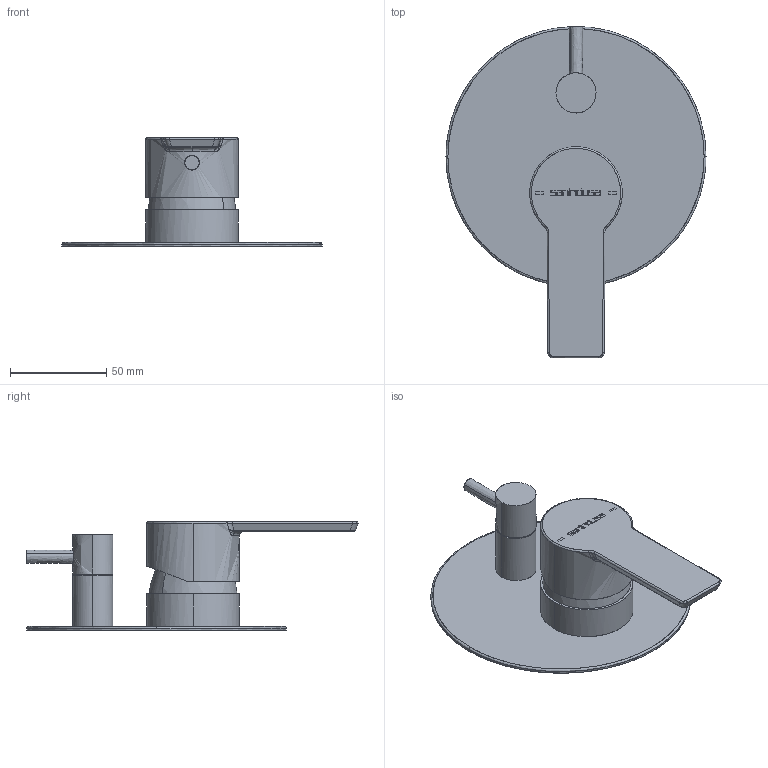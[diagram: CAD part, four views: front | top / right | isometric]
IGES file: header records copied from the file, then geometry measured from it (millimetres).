
Start section: SolidWorks IGES file using NURBS representation for surfaces
Global section: file name: \\IBMGRAU\Projectos\01-TORNEIRAS\MASTER 40\5251601C - mist. encast. 5v esp. red\biblioteca 3D\5251601C_igs.IGS; native system: SolidWorks 2019; preprocessor: SolidWorks 2019; author: Julio; date: 190403.151933; units: millimetre
Bounding box: 135 x 172.38 x 56.4 mm (x, y, z)
Surface area: 45719.3 mm2 (no closed solid volume)
Topology: 0 solids, 0 shells, 223 faces, 2365 edges, 2361 vertices
Faces by surface type: bspline 223
